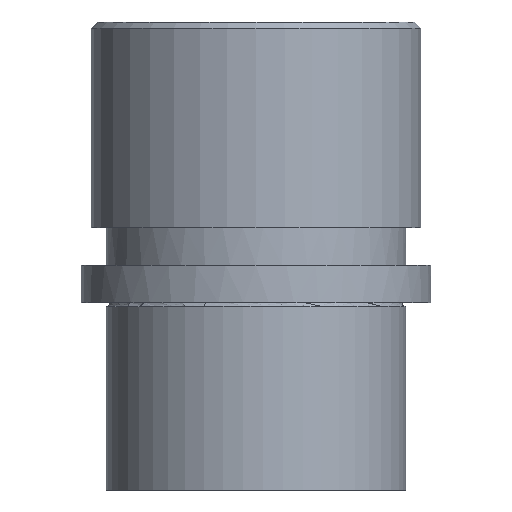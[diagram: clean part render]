
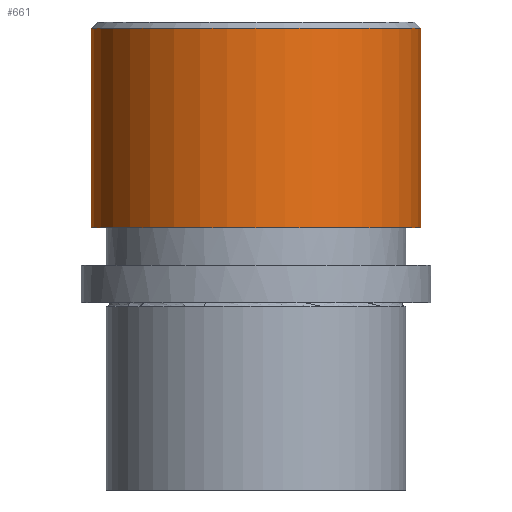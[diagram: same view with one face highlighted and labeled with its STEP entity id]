
A CAD part, front view. The second image highlights one B-rep face of the part: STEP entity #661.
In plain terms, the highlighted cylindrical face has radius 26.4 mm (diameter 52.8 mm), a partial arc.
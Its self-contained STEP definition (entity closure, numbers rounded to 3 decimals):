
#505=CARTESIAN_POINT('Vertex',(-26.4,0.,44.)) ;
#512=CARTESIAN_POINT('Vertex',(26.4,0.,44.)) ;
#532=CARTESIAN_POINT('Axis2P3D Location',(0.,0.,44.)) ;
#619=CARTESIAN_POINT('Line Origine',(-26.4,0.,45.)) ;
#623=CARTESIAN_POINT('Vertex',(-26.4,0.,12.)) ;
#626=CARTESIAN_POINT('Line Origine',(26.4,0.,45.)) ;
#630=CARTESIAN_POINT('Vertex',(26.4,0.,12.)) ;
#645=CARTESIAN_POINT('Axis2P3D Location',(0.,0.,45.)) ;
#650=CARTESIAN_POINT('Axis2P3D Location',(0.,0.,12.)) ;
#533=DIRECTION('Axis2P3D Direction',(0.,0.,-1.)) ;
#620=DIRECTION('Vector Direction',(0.,0.,-1.)) ;
#627=DIRECTION('Vector Direction',(0.,0.,-1.)) ;
#646=DIRECTION('Axis2P3D Direction',(0.,0.,-1.)) ;
#647=DIRECTION('Axis2P3D XDirection',(1.,0.,0.)) ;
#651=DIRECTION('Axis2P3D Direction',(0.,0.,-1.)) ;
#534=AXIS2_PLACEMENT_3D('Circle Axis2P3D',#532,#533,$) ;
#648=AXIS2_PLACEMENT_3D('Cylinder Axis2P3D',#645,#646,#647) ;
#652=AXIS2_PLACEMENT_3D('Circle Axis2P3D',#650,#651,$) ;
#656=ORIENTED_EDGE('',*,*,#632,.T.) ;
#657=ORIENTED_EDGE('',*,*,#536,.F.) ;
#658=ORIENTED_EDGE('',*,*,#625,.T.) ;
#659=ORIENTED_EDGE('',*,*,#654,.T.) ;
#621=VECTOR('Line Direction',#620,1.) ;
#628=VECTOR('Line Direction',#627,1.) ;
#661=ADVANCED_FACE('735-32',(#660),#649,.T.) ;
#535=CIRCLE('generated circle',#534,26.4) ;
#653=CIRCLE('generated circle',#652,26.4) ;
#649=CYLINDRICAL_SURFACE('generated cylinder',#648,26.4) ;
#536=EDGE_CURVE('',#506,#513,#535,.F.) ;
#625=EDGE_CURVE('',#506,#624,#622,.T.) ;
#632=EDGE_CURVE('',#631,#513,#629,.F.) ;
#654=EDGE_CURVE('',#624,#631,#653,.F.) ;
#655=EDGE_LOOP('',(#656,#657,#658,#659)) ;
#660=FACE_OUTER_BOUND('',#655,.T.) ;
#622=LINE('Line',#619,#621) ;
#629=LINE('Line',#626,#628) ;
#506=VERTEX_POINT('',#505) ;
#513=VERTEX_POINT('',#512) ;
#624=VERTEX_POINT('',#623) ;
#631=VERTEX_POINT('',#630) ;
